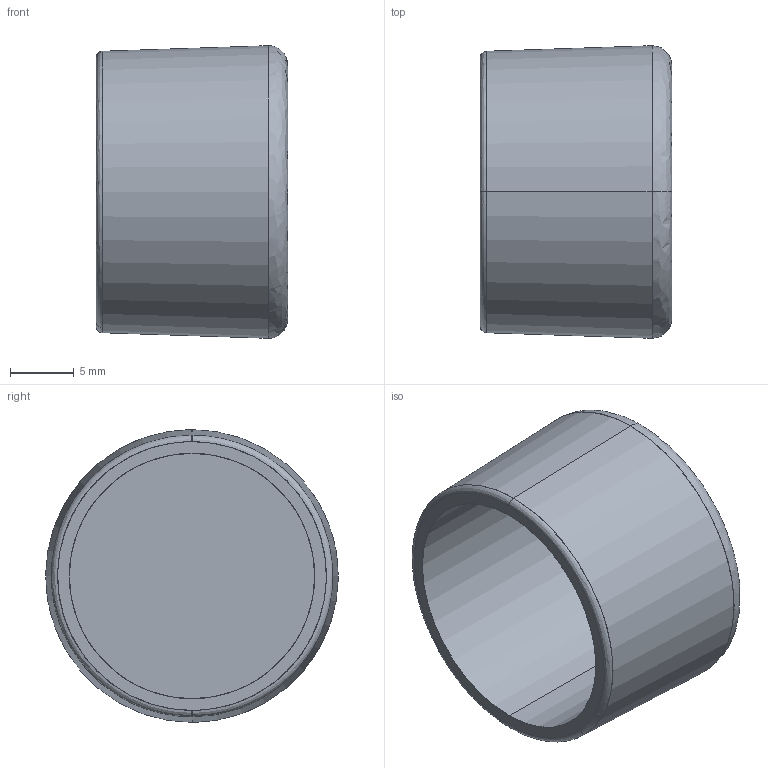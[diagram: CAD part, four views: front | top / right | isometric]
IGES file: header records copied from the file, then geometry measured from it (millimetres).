
Start section: SolidWorks IGES file using analytic representation for surfaces
Global section: file name: R:\DESIGN STORE\PRODUCTS\INDOOR AIRING\C0249 Bed Bath & Beyond X-Wing\stage 1\solidworks\C2\C0249 Iges 091013\C0249_204_C2_Foot_A.IGS; native system: SolidWorks 2013; preprocessor: SolidWorks 2013; author: howardm; date: 131009.161907; units: millimetre
Bounding box: 15 x 22.9 x 22.9 mm (x, y, z)
Surface area: 2620.8 mm2 (no closed solid volume)
Topology: 0 solids, 0 shells, 11 faces, 160 edges, 160 vertices
Faces by surface type: bspline 7, revolution 4
